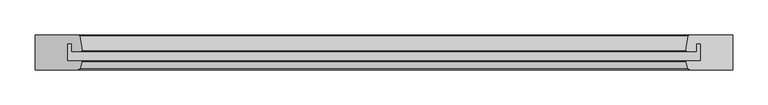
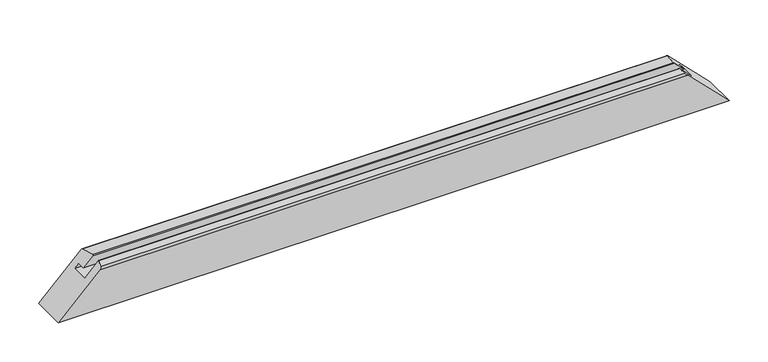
"""IFC4 building model written with IfcOpenShell, lengths in millimetres: proxy geometry, Weiku - Montante - Caixilho fixo 02.2.01.005 : Weiku - Montante - Caixilho fixo 02.2.01.005."""

import ifcopenshell
import ifcopenshell.guid

model = None  # the IFC model being written
_history = None  # IfcOwnerHistory: only IFC2X3 demands one
_inside = {}  # id of a spatial element -> (the spatial element, [elements in it])
_under = {}  # id of a project, library or spatial element -> (it, [spatial elements below it])
_declared = {}  # id of a project -> (the project, [libraries it declares])
_typed = {}  # id of a type object -> (the type object, [elements of that type])
_made_of = {}  # id of a material, layer set ... -> (it, [elements and type objects made of it])


def new_model(schema):
    """Start an empty IFC model of exactly this schema.

    Asked for "IFC4X3", IfcOpenShell would pick the latest addendum, in which some entities
    have other attributes; the version numbers below select the first issue.
    IFC2X3 requires an IfcOwnerHistory on every rooted entity: one is made here for all.
    """
    global model, _history
    if schema == "IFC4X3":
        model = ifcopenshell.file(schema_version=(4, 3, 0, 0))
    else:
        model = ifcopenshell.file(schema=schema)
    _inside.clear()
    _under.clear()
    _declared.clear()
    _typed.clear()
    _made_of.clear()
    _history = None
    if model.schema == "IFC2X3":
        org = make("IfcOrganization", Name="unknown")
        user = make(
            "IfcPersonAndOrganization",
            ThePerson=make("IfcPerson", FamilyName="unknown"),
            TheOrganization=org,
        )
        app = make(
            "IfcApplication",
            ApplicationDeveloper=org,
            Version="unknown",
            ApplicationFullName="unknown",
            ApplicationIdentifier="unknown",
        )
        _history = make(
            "IfcOwnerHistory",
            OwningUser=user,
            OwningApplication=app,
            ChangeAction="ADDED",
            CreationDate=0,
        )
    return model


def make(cls, **values):
    """One entity of the class cls with the attributes given. An attribute that is None is left unset."""
    return model.create_entity(
        cls, **{name: value for name, value in values.items() if value is not None}
    )


def rooted(cls, **values):
    """An entity with a GlobalId (a new one), such as an element, a storey or a relation."""
    return make(cls, GlobalId=ifcopenshell.guid.new(), OwnerHistory=_history, **values)


def si_unit(unit_type, name, prefix=None):
    """IfcSIUnit, for example si_unit("LENGTHUNIT", "METRE", prefix="MILLI")."""
    return make("IfcSIUnit", UnitType=unit_type, Prefix=prefix, Name=name)


def assignment(units):
    """IfcUnitAssignment: the units of a project."""
    return None if units is None else make("IfcUnitAssignment", Units=units)


def point(xyz):
    """IfcCartesianPoint."""
    return None if xyz is None else make("IfcCartesianPoint", Coordinates=xyz)


def direction(xyz):
    """IfcDirection."""
    return None if xyz is None else make("IfcDirection", DirectionRatios=xyz)


def frame(location, z_axis=None, x_axis=None):
    """IfcAxis2Placement3D, a coordinate frame: its origin and axes. An axis left out is left unset."""
    return make(
        "IfcAxis2Placement3D",
        Location=point(location),
        Axis=direction(z_axis),
        RefDirection=direction(x_axis),
    )


def origin():
    """The frame at (0, 0, 0) with its axes left unset."""
    return frame((0.0, 0.0, 0.0))


def place(relative_to, where):
    """IfcLocalPlacement: puts the frame where relative to a parent placement (None: the world)."""
    return make(
        "IfcLocalPlacement", PlacementRelTo=relative_to, RelativePlacement=where
    )


def context(
    kind, dimensions, precision=None, world=None, true_north=None, identifier=None
):
    """IfcGeometricRepresentationContext, for example the 3D "Model" context."""
    return make(
        "IfcGeometricRepresentationContext",
        ContextIdentifier=identifier,
        ContextType=kind,
        CoordinateSpaceDimension=dimensions,
        Precision=precision,
        WorldCoordinateSystem=world,
        TrueNorth=true_north,
    )


def project(units=None, contexts=None):
    """IfcProject with its units and contexts."""
    return rooted(
        "IfcProject",
        Name="project",
        RepresentationContexts=contexts,
        UnitsInContext=assignment(units),
    )


def spatial(cls, under=None, at=None, **own):
    """A site, building, storey or space (cls), placed at a placement, below another one or the project."""
    s = rooted(cls, ObjectPlacement=at, **own)
    if under is not None:
        _under.setdefault(under.id(), (under, []))[1].append(s)
    return s


def ellipse_curve(where, semi_axis1, semi_axis2):
    """IfcEllipse in the frame where."""
    return make(
        "IfcEllipse", Position=where, SemiAxis1=semi_axis1, SemiAxis2=semi_axis2
    )


def shape(context_of_items, identifier, shape_type, items):
    """IfcShapeRepresentation: the items that make up one representation, for example the "Body"."""
    return make(
        "IfcShapeRepresentation",
        ContextOfItems=context_of_items,
        RepresentationIdentifier=identifier,
        RepresentationType=shape_type,
        Items=items,
    )


def source(mapping_origin, context_of_items, identifier, shape_type, items):
    """IfcRepresentationMap: a shape defined once, which mapped items show again and again."""
    return make(
        "IfcRepresentationMap",
        MappingOrigin=mapping_origin,
        MappedRepresentation=shape(context_of_items, identifier, shape_type, items),
    )


def transform(
    local_origin,
    x_axis=None,
    y_axis=None,
    z_axis=None,
    scale=None,
    scale2=None,
    scale3=None,
    uniform=True,
):
    """IfcCartesianTransformationOperator3D, or its non-uniform kind. x_axis, y_axis, z_axis: its Axis1, 2, 3."""
    if uniform:
        return make(
            "IfcCartesianTransformationOperator3D",
            Axis1=direction(x_axis),
            Axis2=direction(y_axis),
            LocalOrigin=point(local_origin),
            Scale=scale,
            Axis3=direction(z_axis),
        )
    return make(
        "IfcCartesianTransformationOperator3DnonUniform",
        Axis1=direction(x_axis),
        Axis2=direction(y_axis),
        LocalOrigin=point(local_origin),
        Scale=scale,
        Axis3=direction(z_axis),
        Scale2=scale2,
        Scale3=scale3,
    )


def mapped(mapping_source, mapping_target):
    """IfcMappedItem: shows the shape of a source again, moved by a transform."""
    return make(
        "IfcMappedItem", MappingSource=mapping_source, MappingTarget=mapping_target
    )


def made_of(thing, what):
    """Note that an element or type object is made of a material, layer set ...; save() writes the relation."""
    if what is not None:
        _made_of.setdefault(what.id(), (what, []))[1].append(thing)
    return thing


def element(
    cls,
    number,
    at=None,
    inside=None,
    cuts=None,
    type_object=None,
    material=None,
    context=None,
    identifier="Body",
    shape_type=None,
    held_by="IfcProductDefinitionShape",
    body=None,
    shapes=None,
    **own,
):
    """One element of the class cls, such as IfcWall. Its Tag is "e" and its number.

    at: its placement. inside: the storey or other place that contains it. cuts: it is an
    opening in that element (IfcRelVoidsElement). A single representation is given by context,
    identifier, shape_type and body (its items); several are given by shapes. held_by: the class
    of the entity that holds the representations. save() writes the other relations.
    """
    e = rooted(cls, Tag="e%d" % number, ObjectPlacement=at, **own)
    if body is not None:
        shapes = [shape(context, identifier, shape_type, body)]
    if shapes is not None:
        e.Representation = make(held_by, Representations=shapes)
    if inside is not None:
        _inside.setdefault(inside.id(), (inside, []))[1].append(e)
    if cuts is not None:
        rooted(
            "IfcRelVoidsElement", RelatingBuildingElement=cuts, RelatedOpeningElement=e
        )
    if type_object is not None:
        _typed.setdefault(type_object.id(), (type_object, []))[1].append(e)
    return made_of(e, material)


def aggregate(whole, parts):
    """IfcRelAggregates: a whole, such as a stair, and the parts it consists of."""
    return rooted("IfcRelAggregates", RelatingObject=whole, RelatedObjects=parts)


def save(model, path):
    """Write the relations noted so far, then the file.

    IfcRelAggregates (storeys below a building ...), IfcRelContainedInSpatialStructure (elements
    in a storey), IfcRelDefinesByType, IfcRelAssociatesMaterial and IfcRelDeclares: one each for
    every whole, place, type object, material and project.
    """
    for whole, parts in _under.values():
        aggregate(whole, parts)
    for where, things in _inside.values():
        rooted(
            "IfcRelContainedInSpatialStructure",
            RelatedElements=things,
            RelatingStructure=where,
        )
    for kind, things in _typed.values():
        rooted("IfcRelDefinesByType", RelatedObjects=things, RelatingType=kind)
    for what, things in _made_of.values():
        rooted("IfcRelAssociatesMaterial", RelatedObjects=things, RelatingMaterial=what)
    for by, libraries in _declared.values():
        rooted("IfcRelDeclares", RelatingContext=by, RelatedDefinitions=libraries)
    model.write(path)


def plane_surface(at):
    """IfcPlane: the flat surface through the origin of the frame at, square to its z axis."""
    return make("IfcPlane", Position=at)


def cylinder_surface(at, radius):
    """IfcCylindricalSurface: all points at the distance radius from the z axis of the frame at."""
    return make("IfcCylindricalSurface", Position=at, Radius=radius)


def advanced_brep(points, edges, surfaces, faces):
    """IfcAdvancedBrep: a solid bounded by faces that lie on surfaces and meet in shared edges.

    An edge is (start, end): straight between two places in points (the first is 0);
    or (start, end, curve); or (start, end, curve, False) where it runs against its curve.
    A face is (place in surfaces, loops), or (place, loops, False) where it looks against
    its surface's normal. A loop lists edges by number (the first is 1), with a minus sign
    where the edge is run from its end to its start. The first loop is the outer one.
    """
    corners = [point(p) for p in points]
    vertices = [make("IfcVertexPoint", VertexGeometry=c) for c in corners]
    made = []
    for start, end, *more in edges:
        made.append(
            make(
                "IfcEdgeCurve",
                EdgeStart=vertices[start],
                EdgeEnd=vertices[end],
                EdgeGeometry=more[0] if more else make("IfcPolyline", Points=[corners[start], corners[end]]),
                SameSense=more[1] if len(more) > 1 else True,
            )
        )
    hull = []
    for where, loops, *sense in faces:
        bounds = []
        for j, loop in enumerate(loops):
            ring = [make("IfcOrientedEdge", EdgeElement=made[abs(k) - 1], Orientation=k > 0) for k in loop]
            bounds.append(
                make(
                    "IfcFaceOuterBound" if j == 0 else "IfcFaceBound",
                    Bound=make("IfcEdgeLoop", EdgeList=ring),
                    Orientation=True,
                )
            )
        hull.append(make("IfcAdvancedFace", Bounds=bounds, FaceSurface=surfaces[where], SameSense=sense[0] if sense else True))
    return make("IfcAdvancedBrep", Outer=make("IfcClosedShell", CfsFaces=hull))


def generic_models_6f5a0c79(model_context):
    return source(origin(), model_context, "Body", "AdvancedBrep", [
        advanced_brep(
        [(-430.618227, -38.5070552, 66.881773), (-431.3909676, -37.5, 66.1090324), (-451.5, -37.5, 46.0), (-451.5, -12.5, 46.0), (-445.5009154, -12.5, 51.9990846), (-445.5009154, -23.5, 51.9990846), (-431.4865015, -23.5, 66.0134985), (-430.4998537, -22.3371317, 67.0001463), (-434.0489094, -0.8371317, 63.4510906), (-435.0355572, 0.0, 62.4644428), (-497.5, 0.0, 0.0), (-497.5, -50.0, 0.0), (-435.9997332, -50.0, 61.5002668), (-433.1019557, -47.7764571, 64.3980443), (433.1019557, -47.7764571, 64.3980443), (435.9997332, -50.0, 61.5002668), (497.5, -50.0, 0.0), (497.5, 0.0, 0.0), (435.0355572, 0.0, 62.4644428), (434.0489094, -0.8371317, 63.4510906), (430.4998537, -22.3371317, 67.0001463), (431.4865015, -23.5, 66.0134985), (445.5009154, -23.5, 51.9990846), (445.5009154, -12.5, 51.9990846), (451.5, -12.5, 46.0), (451.5, -37.5, 46.0), (431.3909676, -37.5, 66.1090324), (430.618227, -38.5070552, 66.881773)],
        [
            (0, 1, ellipse_curve(frame((-431.3909676, -38.3, 66.1090324), z_axis=(-0.707106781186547, 0.0, 0.7071067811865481), x_axis=(-0.7071067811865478, 0.0, -0.707106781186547)), 1.1313708, 0.8)),
            (1, 2),
            (2, 3),
            (3, 4),
            (4, 5),
            (5, 6),
            (6, 7, ellipse_curve(frame((-431.4865015, -22.5, 66.0134985), z_axis=(-0.707106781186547, 0.0, 0.7071067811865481), x_axis=(-0.7071067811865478, 0.0, -0.707106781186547)), 1.4142136, 1.0)),
            (7, 8),
            (8, 9, ellipse_curve(frame((-435.0355572, -1.0, 62.4644428), z_axis=(-0.707106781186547, 0.0, 0.7071067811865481), x_axis=(-0.7071067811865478, 0.0, -0.707106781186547)), 1.4142136, 1.0)),
            (9, 10),
            (10, 11),
            (11, 12),
            (12, 13, ellipse_curve(frame((-435.9997332, -47.0, 61.5002668), z_axis=(-0.707106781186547, 0.0, 0.7071067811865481), x_axis=(-0.7071067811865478, 0.0, -0.707106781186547)), 4.2426407, 3.0)),
            (13, 0),
            (14, 15, ellipse_curve(frame((435.9997332, -47.0, 61.5002668), z_axis=(0.7071067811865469, 0.0, 0.7071067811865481), x_axis=(-0.7071067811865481, 0.0, 0.7071067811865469)), 4.2426407, 3.0)),
            (15, 16),
            (16, 17),
            (17, 18),
            (18, 19, ellipse_curve(frame((435.0355572, -1.0, 62.4644428), z_axis=(0.7071067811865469, 0.0, 0.7071067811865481), x_axis=(-0.7071067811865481, 0.0, 0.7071067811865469)), 1.4142136, 1.0)),
            (19, 20),
            (20, 21, ellipse_curve(frame((431.4865015, -22.5, 66.0134985), z_axis=(0.7071067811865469, 0.0, 0.7071067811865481), x_axis=(-0.7071067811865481, 0.0, 0.7071067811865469)), 1.4142136, 1.0)),
            (21, 22),
            (22, 23),
            (23, 24),
            (24, 25),
            (25, 26),
            (26, 27, ellipse_curve(frame((431.3909676, -38.3, 66.1090324), z_axis=(0.7071067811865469, 0.0, 0.7071067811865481), x_axis=(-0.7071067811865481, 0.0, 0.7071067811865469)), 1.1313708, 0.8)),
            (27, 14),
            (13, 14),
            (27, 0),
            (12, 15),
            (11, 16),
            (10, 17),
            (9, 18),
            (8, 19),
            (7, 20),
            (6, 21),
            (5, 22),
            (4, 23),
            (3, 24),
            (2, 25),
            (1, 26),
        ],
        [
            plane_surface(frame((-567.5, 15.0, -70.0), z_axis=(-0.707106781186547, 0.0, 0.7071067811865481), x_axis=(0.0, -1.0, 0.0))),
            plane_surface(frame((427.5, 15.0, 70.0), z_axis=(0.7071067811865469, 0.0, 0.7071067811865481), x_axis=(0.0, -1.0, 0.0))),
            plane_surface(frame((-497.5, -38.5070552, 66.881773), z_axis=(0.0, -0.2588190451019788, 0.9659258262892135), x_axis=(1.0, 0.0, 0.0))),
            cylinder_surface(frame((-497.5, -47.0, 61.5002668), z_axis=(-1.0, 0.0, 0.0), x_axis=(0.0, 1.0, 0.0)), 3.0),
            plane_surface(frame((-497.5, -50.0, 61.5002668), z_axis=(0.0, -1.0, 0.0), x_axis=(1.0, 0.0, 0.0))),
            plane_surface(frame((-497.5, -50.0, 0.0), z_axis=(0.0, 0.0, -1.0), x_axis=(1.0, 0.0, 0.0))),
            plane_surface(frame((-497.5, 0.0, 0.0), z_axis=(0.0, 1.0, 0.0), x_axis=(1.0, 0.0, 0.0))),
            cylinder_surface(frame((-497.5, -1.0, 62.4644428), z_axis=(-1.0, 0.0, 0.0), x_axis=(0.0, -1.0, 0.0)), 1.0),
            plane_surface(frame((-497.5, -0.8371317, 63.4510906), z_axis=(0.0, 0.16286828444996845, 0.9866478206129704), x_axis=(1.0, 0.0, 0.0))),
            cylinder_surface(frame((-497.5, -22.5, 66.0134985), z_axis=(-1.0, 0.0, 0.0), x_axis=(0.0, -1.0, 0.0)), 1.0),
            plane_surface(frame((-497.5, -23.5, 66.0134985), z_axis=(0.0, -1.0, 0.0), x_axis=(1.0, 0.0, 0.0))),
            plane_surface(frame((-497.5, -23.5, 51.9990846), z_axis=(0.0, 0.0, -1.0), x_axis=(1.0, 0.0, 0.0))),
            plane_surface(frame((-497.5, -12.5, 51.9990846), z_axis=(0.0, -1.0, 0.0), x_axis=(1.0, 0.0, 0.0))),
            plane_surface(frame((-497.5, -12.5, 46.0), z_axis=(0.0, 0.0, 1.0), x_axis=(1.0, 0.0, 0.0))),
            plane_surface(frame((-497.5, -37.5, 46.0), z_axis=(0.0, 1.0, 0.0), x_axis=(1.0, 0.0, 0.0))),
            cylinder_surface(frame((-497.5, -38.3, 66.1090324), z_axis=(-1.0, 0.0, 0.0), x_axis=(0.0, 1.0, 0.0)), 0.8),
        ],
        [
            (0, [[1, 2, 3, 4, 5, 6, 7, 8, 9, 10, 11, 12, 13, 14]]),
            (1, [[15, 16, 17, 18, 19, 20, 21, 22, 23, 24, 25, 26, 27, 28]]),
            (2, [[29, -28, 30, -14]]),
            (3, [[31, -15, -29, -13]]),
            (4, [[-16, -31, -12, 32]]),
            (5, [[-11, 33, -17, -32]]),
            (6, [[-10, 34, -18, -33]]),
            (7, [[35, -19, -34, -9]]),
            (8, [[36, -20, -35, -8]]),
            (9, [[37, -21, -36, -7]]),
            (10, [[38, -22, -37, -6]]),
            (11, [[39, -23, -38, -5]]),
            (12, [[40, -24, -39, -4]]),
            (13, [[41, -25, -40, -3]]),
            (14, [[42, -26, -41, -2]]),
            (15, [[-30, -27, -42, -1]]),
        ],
    ),
    ])


if __name__ == "__main__":
    model = new_model("IFC4")
    model_context = context("Model", 3, world=origin())
    ifc_project = project(units=[si_unit("LENGTHUNIT", "METRE", prefix="MILLI")], contexts=[model_context])
    site = spatial("IfcSite", under=ifc_project)
    building = spatial("IfcBuilding", under=site)
    placement = place(None, origin())
    generic_models_shape = generic_models_6f5a0c79(model_context)
    element("IfcBuildingElementProxy", 1, Name="Weiku - Montante - Caixilho fixo 02.2.01.005 : Weiku - Montante - Caixilho fixo 02.2.01.005", ObjectType="Weiku - Montante - Caixilho fixo 02.2.01.005 : Weiku - Montante - Caixilho fixo 02.2.01.005", at=placement, inside=building, context=model_context, shape_type="MappedRepresentation", body=[
        mapped(generic_models_shape, transform((0.0, 0.0, 0.0), x_axis=(1.0, 0.0, 0.0), y_axis=(0.0, 1.0, 0.0), z_axis=(0.0, 0.0, 1.0))),
    ])
    save(model, "model.ifc")
